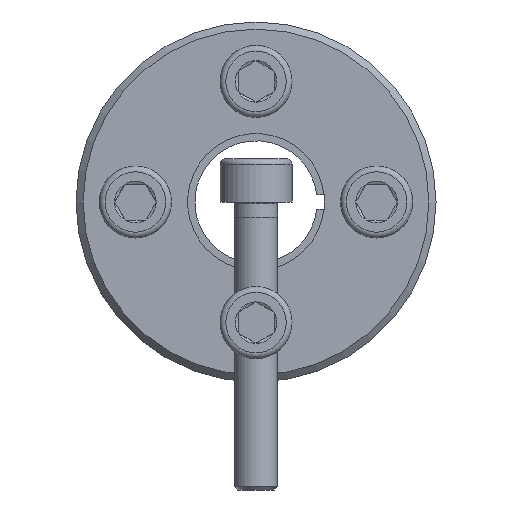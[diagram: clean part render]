
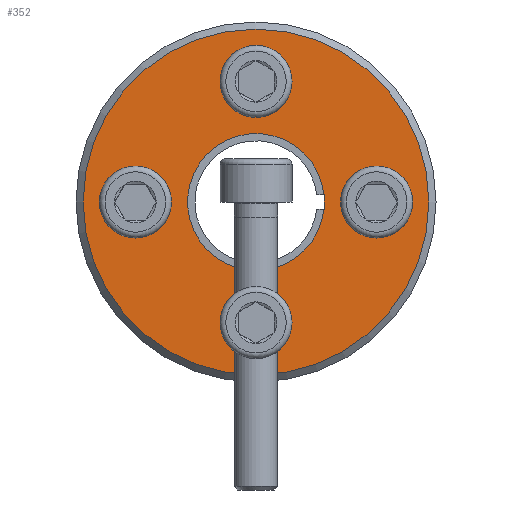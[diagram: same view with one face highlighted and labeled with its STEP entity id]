
A CAD part, front view. The second image highlights one B-rep face of the part: STEP entity #352.
In plain terms, the highlighted planar face has unit normal (0, -1, 0).
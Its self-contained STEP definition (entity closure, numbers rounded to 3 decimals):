
#352 = ADVANCED_FACE( '', ( #551, #552, #553, #554, #555, #556 ), #557, .F. );
#551 = FACE_OUTER_BOUND( '', #701, .T. );
#552 = FACE_BOUND( '', #702, .T. );
#553 = FACE_BOUND( '', #703, .T. );
#554 = FACE_BOUND( '', #704, .T. );
#555 = FACE_BOUND( '', #705, .T. );
#556 = FACE_BOUND( '', #706, .T. );
#557 = PLANE( '', #707 );
#701 = EDGE_LOOP( '', ( #874 ) );
#702 = EDGE_LOOP( '', ( #875 ) );
#703 = EDGE_LOOP( '', ( #876 ) );
#704 = EDGE_LOOP( '', ( #877 ) );
#705 = EDGE_LOOP( '', ( #878 ) );
#706 = EDGE_LOOP( '', ( #879, #880, #881, #882 ) );
#707 = AXIS2_PLACEMENT_3D( '', #883, #884, #885 );
#874 = ORIENTED_EDGE( '', *, *, #1219, .T. );
#875 = ORIENTED_EDGE( '', *, *, #1220, .T. );
#876 = ORIENTED_EDGE( '', *, *, #1221, .T. );
#877 = ORIENTED_EDGE( '', *, *, #1222, .T. );
#878 = ORIENTED_EDGE( '', *, *, #1223, .T. );
#879 = ORIENTED_EDGE( '', *, *, #1224, .F. );
#880 = ORIENTED_EDGE( '', *, *, #1225, .T. );
#881 = ORIENTED_EDGE( '', *, *, #1226, .T. );
#882 = ORIENTED_EDGE( '', *, *, #1227, .F. );
#883 = CARTESIAN_POINT( '', ( 0., 0., 25. ) );
#884 = DIRECTION( '', ( 0., 1., 0. ) );
#885 = DIRECTION( '', ( 0., 0., 1. ) );
#1219 = EDGE_CURVE( '', #1342, #1342, #1343, .F. );
#1220 = EDGE_CURVE( '', #1344, #1344, #1345, .T. );
#1221 = EDGE_CURVE( '', #1346, #1346, #1347, .T. );
#1222 = EDGE_CURVE( '', #1348, #1348, #1349, .T. );
#1223 = EDGE_CURVE( '', #1350, #1350, #1351, .T. );
#1224 = EDGE_CURVE( '', #1352, #1353, #1354, .T. );
#1225 = EDGE_CURVE( '', #1352, #1355, #1356, .T. );
#1226 = EDGE_CURVE( '', #1355, #1357, #1358, .T. );
#1227 = EDGE_CURVE( '', #1353, #1357, #1359, .T. );
#1342 = VERTEX_POINT( '', #1450 );
#1343 = CIRCLE( '', #1451, 24. );
#1344 = VERTEX_POINT( '', #1452 );
#1345 = CIRCLE( '', #1453, 3. );
#1346 = VERTEX_POINT( '', #1454 );
#1347 = CIRCLE( '', #1455, 3. );
#1348 = VERTEX_POINT( '', #1456 );
#1349 = CIRCLE( '', #1457, 3. );
#1350 = VERTEX_POINT( '', #1458 );
#1351 = CIRCLE( '', #1459, 3. );
#1352 = VERTEX_POINT( '', #1460 );
#1353 = VERTEX_POINT( '', #1461 );
#1354 = CIRCLE( '', #1462, 9.5 );
#1355 = VERTEX_POINT( '', #1463 );
#1356 = LINE( '', #1464, #1465 );
#1357 = VERTEX_POINT( '', #1466 );
#1358 = LINE( '', #1467, #1468 );
#1359 = LINE( '', #1469, #1470 );
#1450 = CARTESIAN_POINT( '', ( 0., 0., 24. ) );
#1451 = AXIS2_PLACEMENT_3D( '', #1606, #1607, #1608 );
#1452 = CARTESIAN_POINT( '', ( -16.75, 0., 3. ) );
#1453 = AXIS2_PLACEMENT_3D( '', #1609, #1610, #1611 );
#1454 = CARTESIAN_POINT( '', ( -3., 0., -16.75 ) );
#1455 = AXIS2_PLACEMENT_3D( '', #1612, #1613, #1614 );
#1456 = CARTESIAN_POINT( '', ( 16.75, 0., -3. ) );
#1457 = AXIS2_PLACEMENT_3D( '', #1615, #1616, #1617 );
#1458 = CARTESIAN_POINT( '', ( 3., 0., 16.75 ) );
#1459 = AXIS2_PLACEMENT_3D( '', #1618, #1619, #1620 );
#1460 = CARTESIAN_POINT( '', ( 9.447, 0., 1. ) );
#1461 = CARTESIAN_POINT( '', ( 9.447, 0., -1. ) );
#1462 = AXIS2_PLACEMENT_3D( '', #1621, #1622, #1623 );
#1463 = CARTESIAN_POINT( '', ( 9.5, 0., 1. ) );
#1464 = CARTESIAN_POINT( '', ( 0., 0., 1. ) );
#1465 = VECTOR( '', #1624, 1000. );
#1466 = CARTESIAN_POINT( '', ( 9.5, 0., -1. ) );
#1467 = CARTESIAN_POINT( '', ( 9.5, 0., 1. ) );
#1468 = VECTOR( '', #1625, 1000. );
#1469 = CARTESIAN_POINT( '', ( 0., 0., -1. ) );
#1470 = VECTOR( '', #1626, 1000. );
#1606 = CARTESIAN_POINT( '', ( 0., 0., 0. ) );
#1607 = DIRECTION( '', ( 0., 1., 0. ) );
#1608 = DIRECTION( '', ( 0., 0., 1. ) );
#1609 = CARTESIAN_POINT( '', ( -16.75, 0., 0. ) );
#1610 = DIRECTION( '', ( 0., 1., 0. ) );
#1611 = DIRECTION( '', ( 0., 0., 1. ) );
#1612 = CARTESIAN_POINT( '', ( 0., 0., -16.75 ) );
#1613 = DIRECTION( '', ( 0., 1., 0. ) );
#1614 = DIRECTION( '', ( -1., 0., 0. ) );
#1615 = CARTESIAN_POINT( '', ( 16.75, 0., 0. ) );
#1616 = DIRECTION( '', ( 0., 1., 0. ) );
#1617 = DIRECTION( '', ( 0., 0., -1. ) );
#1618 = CARTESIAN_POINT( '', ( 0., 0., 16.75 ) );
#1619 = DIRECTION( '', ( 0., 1., 0. ) );
#1620 = DIRECTION( '', ( 1., 0., 0. ) );
#1621 = CARTESIAN_POINT( '', ( 0., 0., 0. ) );
#1622 = DIRECTION( '', ( 0., -1., 0. ) );
#1623 = DIRECTION( '', ( 0., 0., -1. ) );
#1624 = DIRECTION( '', ( 1., 0., 0. ) );
#1625 = DIRECTION( '', ( 0., 0., -1. ) );
#1626 = DIRECTION( '', ( 1., 0., 0. ) );
